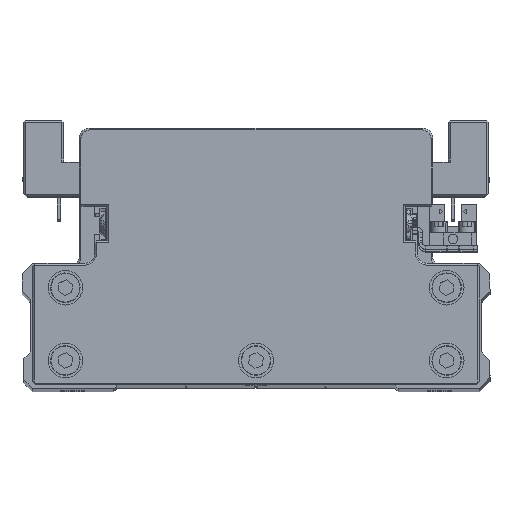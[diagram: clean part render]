
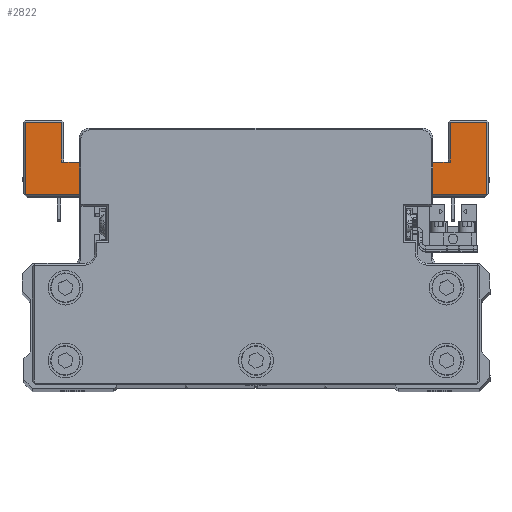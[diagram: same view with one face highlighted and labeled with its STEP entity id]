
A CAD part, top view. The second image highlights one B-rep face of the part: STEP entity #2822.
In plain terms, the highlighted planar face has unit normal (0, 0, 1) as drawn and (0, -1, 0) by its records, which use the part's own axes.
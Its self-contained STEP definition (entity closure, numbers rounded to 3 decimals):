
#73 = EDGE_CURVE ( 'NONE', #28691, #4995, #14058, .T. ) ;
#167 = VECTOR ( 'NONE', #32492, 1000. ) ;
#597 = FACE_OUTER_BOUND ( 'NONE', #35825, .T. ) ;
#719 = DIRECTION ( 'NONE',  ( 0., 1., 0. ) ) ;
#730 = AXIS2_PLACEMENT_3D ( 'NONE', #25049, #37288, #9826 ) ;
#782 = DIRECTION ( 'NONE',  ( -1., 0., 0. ) ) ;
#1192 = LINE ( 'NONE', #13428, #25168 ) ;
#1236 = DIRECTION ( 'NONE',  ( 0., 0., 1. ) ) ;
#1336 = EDGE_CURVE ( 'NONE', #36372, #25844, #38704, .T. ) ;
#1591 = LINE ( 'NONE', #13839, #14532 ) ;
#1858 = CARTESIAN_POINT ( 'NONE',  ( -39.868, -45., -42.987 ) ) ;
#1933 = ORIENTED_EDGE ( 'NONE', *, *, #17825, .T. ) ;
#2216 = VECTOR ( 'NONE', #23465, 1000. ) ;
#2228 = VERTEX_POINT ( 'NONE', #17373 ) ;
#2353 = EDGE_CURVE ( 'NONE', #4440, #28817, #24366, .T. ) ;
#2555 = CIRCLE ( 'NONE', #24967, 1.5 ) ;
#2822 = ADVANCED_FACE ( 'NONE', ( #597 ), #12830, .T. ) ;
#3541 = CARTESIAN_POINT ( 'NONE',  ( -77.786, -45., -42.5 ) ) ;
#3769 = VECTOR ( 'NONE', #9123, 1000. ) ;
#4305 = CARTESIAN_POINT ( 'NONE',  ( 46., -45., -54. ) ) ;
#4330 = ORIENTED_EDGE ( 'NONE', *, *, #34989, .F. ) ;
#4342 = CIRCLE ( 'NONE', #26758, 1.5 ) ;
#4440 = VERTEX_POINT ( 'NONE', #33170 ) ;
#4848 = DIRECTION ( 'NONE',  ( 0., 0., 1. ) ) ;
#4995 = VERTEX_POINT ( 'NONE', #16224 ) ;
#5442 = EDGE_CURVE ( 'NONE', #8646, #27652, #2555, .T. ) ;
#5488 = CARTESIAN_POINT ( 'NONE',  ( 66.5, -45., -43. ) ) ;
#5556 = ORIENTED_EDGE ( 'NONE', *, *, #30809, .F. ) ;
#5617 = VECTOR ( 'NONE', #7490, 1000. ) ;
#6367 = EDGE_CURVE ( 'NONE', #29603, #2228, #8013, .T. ) ;
#6542 = LINE ( 'NONE', #18805, #21477 ) ;
#7016 = DIRECTION ( 'NONE',  ( -0.991, 0., 0.132 ) ) ;
#7107 = ORIENTED_EDGE ( 'NONE', *, *, #34494, .T. ) ;
#7244 = ORIENTED_EDGE ( 'NONE', *, *, #2353, .T. ) ;
#7436 = CARTESIAN_POINT ( 'NONE',  ( -46., -45., -54. ) ) ;
#7483 = VECTOR ( 'NONE', #4848, 1000. ) ;
#7490 = DIRECTION ( 'NONE',  ( 1., 0., 0. ) ) ;
#8013 = LINE ( 'NONE', #20262, #167 ) ;
#8421 = DIRECTION ( 'NONE',  ( 0., 1., 0. ) ) ;
#8490 = VECTOR ( 'NONE', #7016, 1000. ) ;
#8616 = EDGE_CURVE ( 'NONE', #28817, #29603, #1192, .T. ) ;
#8646 = VERTEX_POINT ( 'NONE', #13622 ) ;
#8867 = CARTESIAN_POINT ( 'NONE',  ( 66.5, -45., -64. ) ) ;
#9123 = DIRECTION ( 'NONE',  ( -1., 0., 0. ) ) ;
#9826 = DIRECTION ( 'NONE',  ( 0., 0., -1. ) ) ;
#10031 = ORIENTED_EDGE ( 'NONE', *, *, #6367, .T. ) ;
#10701 = VECTOR ( 'NONE', #24256, 1000. ) ;
#11232 = CARTESIAN_POINT ( 'NONE',  ( -39.868, -45., -42.987 ) ) ;
#11902 = ORIENTED_EDGE ( 'NONE', *, *, #30860, .T. ) ;
#11960 = LINE ( 'NONE', #24194, #28534 ) ;
#12025 = CARTESIAN_POINT ( 'NONE',  ( 46., -45., -54. ) ) ;
#12225 = ORIENTED_EDGE ( 'NONE', *, *, #22373, .T. ) ;
#12376 = CARTESIAN_POINT ( 'NONE',  ( -36.217, -45., -42.5 ) ) ;
#12830 = PLANE ( 'NONE',  #730 ) ;
#12956 = DIRECTION ( 'NONE',  ( 0., 0., -1. ) ) ;
#13428 = CARTESIAN_POINT ( 'NONE',  ( -66.5, -45., -64.5 ) ) ;
#13622 = CARTESIAN_POINT ( 'NONE',  ( 40.066, -45., -43. ) ) ;
#13839 = CARTESIAN_POINT ( 'NONE',  ( 46., -45., -52.5 ) ) ;
#14058 = LINE ( 'NONE', #26271, #38073 ) ;
#14215 = ORIENTED_EDGE ( 'NONE', *, *, #1336, .T. ) ;
#14500 = EDGE_CURVE ( 'NONE', #27652, #15513, #22265, .T. ) ;
#14532 = VECTOR ( 'NONE', #26057, 1000. ) ;
#14590 = LINE ( 'NONE', #26798, #37592 ) ;
#14737 = VERTEX_POINT ( 'NONE', #33262 ) ;
#15513 = VERTEX_POINT ( 'NONE', #27091 ) ;
#15803 = DIRECTION ( 'NONE',  ( -1., 0., 0. ) ) ;
#15932 = EDGE_CURVE ( 'NONE', #25844, #4440, #4342, .T. ) ;
#16052 = LINE ( 'NONE', #28257, #26615 ) ;
#16224 = CARTESIAN_POINT ( 'NONE',  ( -56., -45., -52.5 ) ) ;
#16482 = LINE ( 'NONE', #28705, #23357 ) ;
#17083 = ORIENTED_EDGE ( 'NONE', *, *, #5442, .T. ) ;
#17373 = CARTESIAN_POINT ( 'NONE',  ( -56., -45., -64. ) ) ;
#17552 = ORIENTED_EDGE ( 'NONE', *, *, #14500, .T. ) ;
#17777 = ORIENTED_EDGE ( 'NONE', *, *, #39115, .T. ) ;
#17825 = EDGE_CURVE ( 'NONE', #15513, #36372, #31020, .T. ) ;
#18805 = CARTESIAN_POINT ( 'NONE',  ( 56., -45., -64.5 ) ) ;
#18936 = VERTEX_POINT ( 'NONE', #26678 ) ;
#19548 = VERTEX_POINT ( 'NONE', #35882 ) ;
#19924 = ORIENTED_EDGE ( 'NONE', *, *, #23657, .T. ) ;
#20119 = LINE ( 'NONE', #32335, #7483 ) ;
#20262 = CARTESIAN_POINT ( 'NONE',  ( -55.5, -45., -64. ) ) ;
#20462 = VERTEX_POINT ( 'NONE', #8867 ) ;
#20664 = DIRECTION ( 'NONE',  ( 0., 0., -1. ) ) ;
#21389 = CARTESIAN_POINT ( 'NONE',  ( -46., -45., -52.5 ) ) ;
#21477 = VECTOR ( 'NONE', #31015, 1000. ) ;
#21589 = ORIENTED_EDGE ( 'NONE', *, *, #73, .F. ) ;
#21642 = CARTESIAN_POINT ( 'NONE',  ( -66.5, -45., -64. ) ) ;
#22265 = LINE ( 'NONE', #34491, #8490 ) ;
#22373 = EDGE_CURVE ( 'NONE', #36682, #8646, #16052, .T. ) ;
#22732 = LINE ( 'NONE', #34959, #5617 ) ;
#23357 = VECTOR ( 'NONE', #1236, 1000. ) ;
#23465 = DIRECTION ( 'NONE',  ( -0.991, 0., -0.132 ) ) ;
#23657 = EDGE_CURVE ( 'NONE', #2228, #4995, #14590, .T. ) ;
#24194 = CARTESIAN_POINT ( 'NONE',  ( 55.5, -45., -52.5 ) ) ;
#24256 = DIRECTION ( 'NONE',  ( 1., 0., 0. ) ) ;
#24366 = LINE ( 'NONE', #36605, #3769 ) ;
#24965 = EDGE_CURVE ( 'NONE', #14737, #35224, #1591, .T. ) ;
#24967 = AXIS2_PLACEMENT_3D ( 'NONE', #28195, #719, #12956 ) ;
#25049 = CARTESIAN_POINT ( 'NONE',  ( 0., -45., 0. ) ) ;
#25168 = VECTOR ( 'NONE', #25649, 1000. ) ;
#25568 = ORIENTED_EDGE ( 'NONE', *, *, #24965, .F. ) ;
#25649 = DIRECTION ( 'NONE',  ( 0., 0., -1. ) ) ;
#25844 = VERTEX_POINT ( 'NONE', #1858 ) ;
#26057 = DIRECTION ( 'NONE',  ( 0., 0., -1. ) ) ;
#26271 = CARTESIAN_POINT ( 'NONE',  ( -55.5, -45., -52.5 ) ) ;
#26615 = VECTOR ( 'NONE', #782, 1000. ) ;
#26678 = CARTESIAN_POINT ( 'NONE',  ( 56., -45., -64. ) ) ;
#26758 = AXIS2_PLACEMENT_3D ( 'NONE', #35900, #8421, #20664 ) ;
#26798 = CARTESIAN_POINT ( 'NONE',  ( -56., -45., -52.5 ) ) ;
#27013 = ORIENTED_EDGE ( 'NONE', *, *, #33912, .T. ) ;
#27091 = CARTESIAN_POINT ( 'NONE',  ( 36.217, -45., -42.5 ) ) ;
#27652 = VERTEX_POINT ( 'NONE', #31340 ) ;
#28195 = CARTESIAN_POINT ( 'NONE',  ( 40.066, -45., -41.5 ) ) ;
#28257 = CARTESIAN_POINT ( 'NONE',  ( 40.066, -45., -43. ) ) ;
#28534 = VECTOR ( 'NONE', #36440, 1000. ) ;
#28691 = VERTEX_POINT ( 'NONE', #21389 ) ;
#28705 = CARTESIAN_POINT ( 'NONE',  ( 66.5, -45., -43.5 ) ) ;
#28737 = CARTESIAN_POINT ( 'NONE',  ( -66.5, -45., -43. ) ) ;
#28817 = VERTEX_POINT ( 'NONE', #28737 ) ;
#29603 = VERTEX_POINT ( 'NONE', #21642 ) ;
#30809 = EDGE_CURVE ( 'NONE', #39571, #28691, #20119, .T. ) ;
#30860 = EDGE_CURVE ( 'NONE', #39571, #35224, #39488, .T. ) ;
#31015 = DIRECTION ( 'NONE',  ( 0., 0., -1. ) ) ;
#31020 = LINE ( 'NONE', #3541, #39050 ) ;
#31340 = CARTESIAN_POINT ( 'NONE',  ( 39.868, -45., -42.987 ) ) ;
#32193 = ORIENTED_EDGE ( 'NONE', *, *, #8616, .T. ) ;
#32335 = CARTESIAN_POINT ( 'NONE',  ( -46., -45., -52.5 ) ) ;
#32492 = DIRECTION ( 'NONE',  ( 1., 0., 0. ) ) ;
#33170 = CARTESIAN_POINT ( 'NONE',  ( -40.066, -45., -43. ) ) ;
#33262 = CARTESIAN_POINT ( 'NONE',  ( 46., -45., -52.5 ) ) ;
#33912 = EDGE_CURVE ( 'NONE', #20462, #36682, #16482, .T. ) ;
#34491 = CARTESIAN_POINT ( 'NONE',  ( 25.802, -45., -41.111 ) ) ;
#34494 = EDGE_CURVE ( 'NONE', #19548, #18936, #6542, .T. ) ;
#34959 = CARTESIAN_POINT ( 'NONE',  ( 67., -45., -64. ) ) ;
#34989 = EDGE_CURVE ( 'NONE', #19548, #14737, #11960, .T. ) ;
#35224 = VERTEX_POINT ( 'NONE', #4305 ) ;
#35825 = EDGE_LOOP ( 'NONE', ( #1933, #14215, #39097, #7244, #32193, #10031, #19924, #21589, #5556, #11902, #25568, #4330, #7107, #17777, #27013, #12225, #17083, #17552 ) ) ;
#35882 = CARTESIAN_POINT ( 'NONE',  ( 56., -45., -52.5 ) ) ;
#35900 = CARTESIAN_POINT ( 'NONE',  ( -40.066, -45., -41.5 ) ) ;
#36372 = VERTEX_POINT ( 'NONE', #12376 ) ;
#36440 = DIRECTION ( 'NONE',  ( -1., 0., 0. ) ) ;
#36605 = CARTESIAN_POINT ( 'NONE',  ( -66., -45., -43. ) ) ;
#36682 = VERTEX_POINT ( 'NONE', #5488 ) ;
#37288 = DIRECTION ( 'NONE',  ( 0., -1., 0. ) ) ;
#37592 = VECTOR ( 'NONE', #39042, 1000. ) ;
#38073 = VECTOR ( 'NONE', #38512, 1000. ) ;
#38512 = DIRECTION ( 'NONE',  ( -1., 0., 0. ) ) ;
#38704 = LINE ( 'NONE', #11232, #2216 ) ;
#39042 = DIRECTION ( 'NONE',  ( 0., 0., 1. ) ) ;
#39050 = VECTOR ( 'NONE', #15803, 1000. ) ;
#39097 = ORIENTED_EDGE ( 'NONE', *, *, #15932, .T. ) ;
#39115 = EDGE_CURVE ( 'NONE', #18936, #20462, #22732, .T. ) ;
#39488 = LINE ( 'NONE', #12025, #10701 ) ;
#39571 = VERTEX_POINT ( 'NONE', #7436 ) ;
